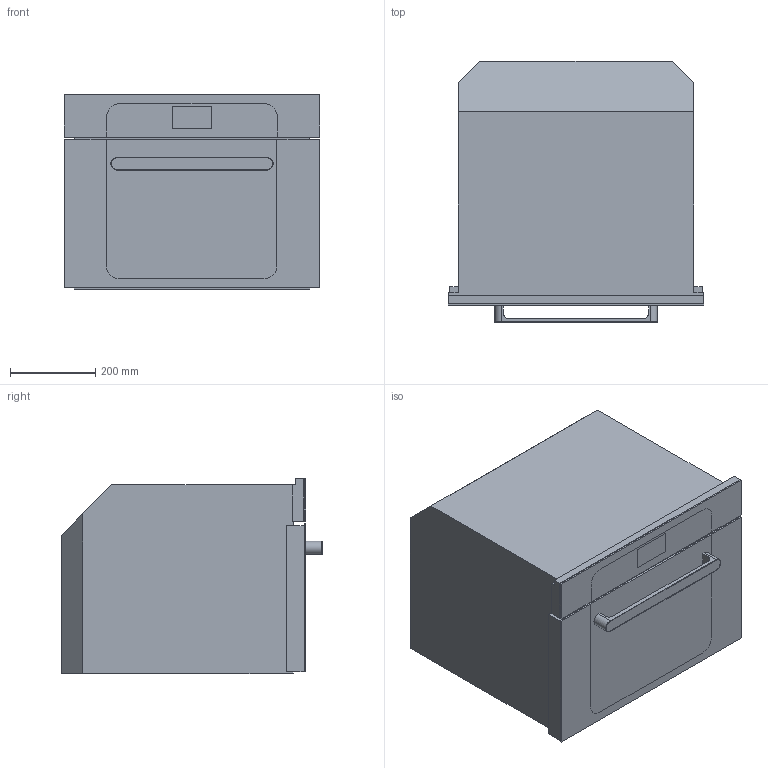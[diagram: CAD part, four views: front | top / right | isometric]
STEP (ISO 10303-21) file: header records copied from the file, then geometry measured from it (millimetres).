
FILE_DESCRIPTION(/* description */ (''),/* implementation_level */ '2;1');
FILE_NAME(/* name */ 'Forno_Musa_45_cm_solo_display.stp',/* time_stamp */ '2026-06-16T11:31:09+02:00',/* author */ (''),/* organization */ (''),/* preprocessor_version */ 'ST-DEVELOPER v20',/* originating_system */ 'SIEMENS PLM Software NX2412.4001',/* authorisation */ '');
FILE_SCHEMA (('AUTOMOTIVE_DESIGN { 1 0 10303 214 3 1 1 1 }'));
Length unit declared in the file: millimetre
Products named in the file (1): Musa45
Bounding box: 597 x 612.33 x 456.55 mm (x, y, z)
Volume: 135337984.7 mm3; surface area: 2244045.5 mm2
Topology: 8 solids, 8 shells, 98 faces, 243 edges, 162 vertices
Faces by surface type: plane 82, cylinder 16
Entity records: 2945 total; most frequent: CARTESIAN_POINT 507, ORIENTED_EDGE 486, DIRECTION 472, EDGE_CURVE 243, LINE 210, VECTOR 210, VERTEX_POINT 162, AXIS2_PLACEMENT_3D 131
